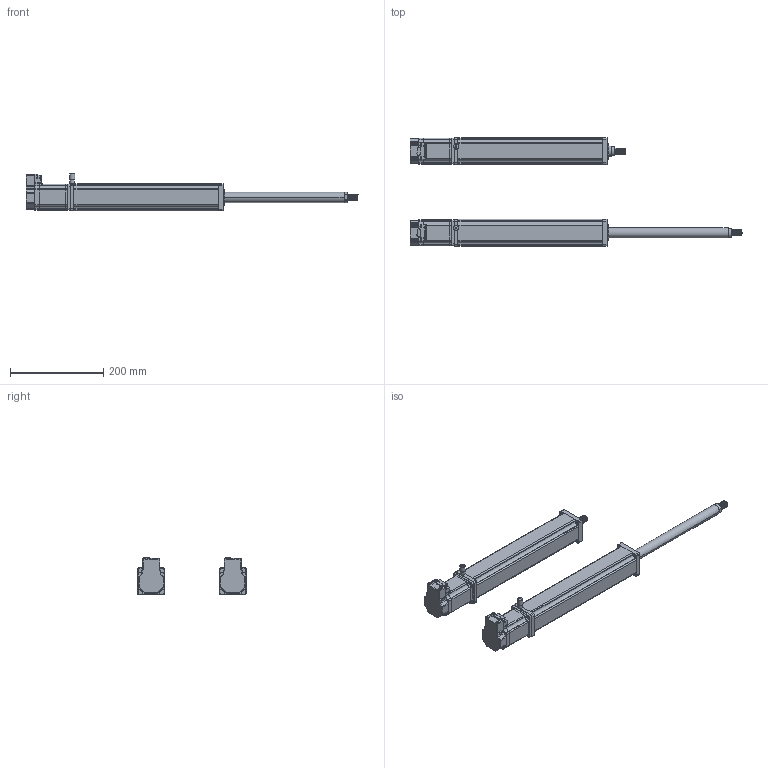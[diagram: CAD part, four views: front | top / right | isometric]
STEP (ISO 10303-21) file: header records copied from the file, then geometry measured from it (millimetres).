
FILE_DESCRIPTION(('FreeCAD Model'),'2;1');
FILE_NAME('Open CASCADE Shape Model','2023-08-04T13:32:31',('Author'),( ''),'Open CASCADE STEP processor 7.5','FreeCAD','Unknown');
FILE_SCHEMA(('AUTOMOTIVE_DESIGN { 1 0 10303 214 1 1 1 1 }'));
Length unit declared in the file: millimetre
Products named in the file (47): Unnamed; Shapes; Shapes001; Shapes002; Shapes003; Shapes004; Shapes005; Shapes006; Shapes007; Shapes008; Shapes009; Shapes010; Shapes011; Shapes012; Shapes013; Shapes014; Shapes015; Shapes016; Shapes017; Shapes018; Shapes019; Shapes020; Shapes021; Shapes022; Shapes023; Shapes024; Shapes025; Shapes026; Shapes027; Shapes028; Shapes029; Shapes030; Shapes031; Shapes032; Shapes033; Shapes034; Shapes035; Shapes036; Shapes037; Shapes038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
Assembly tree (46 placements, depth 2):
  Unnamed
    Shapes
    Shapes001
    Shapes002
    Shapes003
    Shapes004
    Shapes005
    Shapes006
    Shapes007
    Shapes008
    Shapes009
    Shapes010
    Shapes011
    Shapes012
    Shapes013
    Shapes014
    Shapes015
    Shapes016
    Shapes017
    Shapes018
    Shapes019
    Shapes020
    Shapes021
    Shapes022
    Shapes023
    Shapes024
    Shapes025
    Shapes026
    Shapes027
    Shapes028
    Shapes029
    Shapes030
    Shapes031
    Shapes032
    Shapes033
    Shapes034
    Shapes035
    Shapes036
    Shapes037
    Shapes038
    Shapes039
    Shapes040
    Shapes041
    Shapes042
    Shapes043
    AN10-01
    AN10-002
Bounding box: 712.5 x 233.23 x 81.34 mm (x, y, z)
Volume: 2642764.1 mm3; surface area: 326755.5 mm2
Topology: 46 solids, 46 shells, 1358 faces, 3600 edges, 2342 vertices
Faces by surface type: plane 770, cylinder 476, bspline 60, torus 38, sphere 10, cone 4
Full cylindrical faces by diameter (mm): 6 x2, 9.728 x2, 11 x2
Entity records: 146451 total; most frequent: CARTESIAN_POINT 73957, DIRECTION 13358, LINE 8408, VECTOR 8408, ORIENTED_EDGE 7168, PCURVE 7168, DEFINITIONAL_REPRESENTATION 7168, EDGE_CURVE 3584
